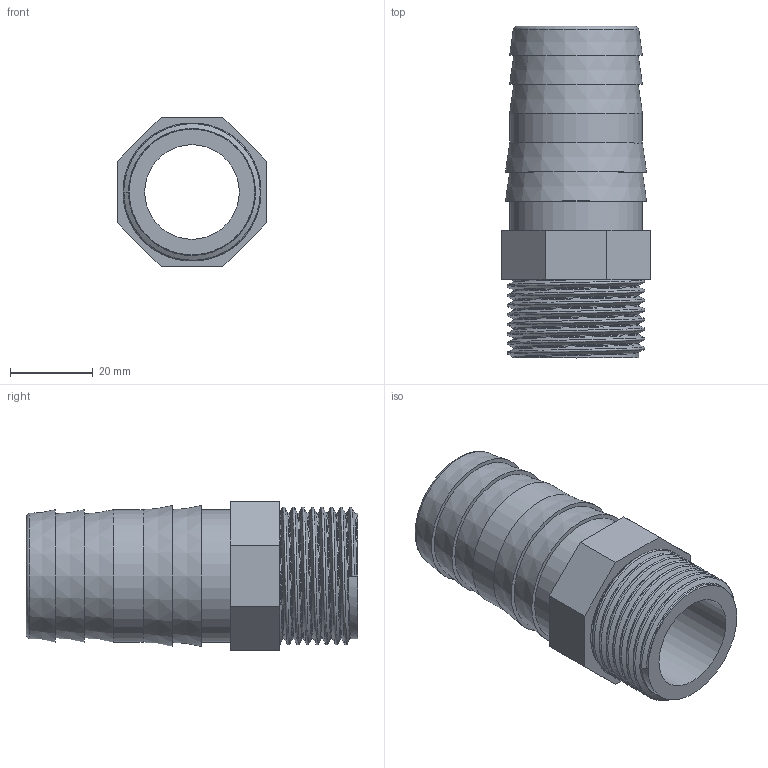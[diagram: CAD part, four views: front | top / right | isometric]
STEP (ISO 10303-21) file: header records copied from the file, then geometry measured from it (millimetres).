
FILE_DESCRIPTION(/* description */ ('PVC portagomma filettato BSP maschio'),/* implementation_level */ '2;1');
FILE_NAME(/* name */ 'C:\Users\POLYPIPE\Desktop\DATASET INVENTOR\LIBRERIA EFFAST\RACCORDI 3DxWEB\RER\3D_RERPGE\3D_RERPGE032D.stp',/* time_stamp */ '2018-01-19T16:52:16+01:00',/* author */ ('POLYPIPE'),/* organization */ ('Polypipe Italia'),/* preprocessor_version */ 'ST-DEVELOPER v16.1',/* originating_system */ 'Autodesk Inventor 2016',/* authorisation */ '');
FILE_SCHEMA (('CONFIG_CONTROL_DESIGN'));
Length unit declared in the file: millimetre
Products named in the file (1): 3D_RERPGE032D
Bounding box: 36 x 80 x 36 mm (x, y, z)
Volume: 34295.9 mm3; surface area: 16807.5 mm2
Topology: 1 solids, 1 shells, 34 faces, 73 edges, 47 vertices
Faces by surface type: plane 18, cone 5, bspline 5, cylinder 5, torus 1
Full cylindrical faces by diameter (mm): 22.8 x1, 30.291 x1, 32 x2
Entity records: 3853 total; most frequent: CARTESIAN_POINT 3150, DIRECTION 129, ORIENTED_EDGE 126, EDGE_CURVE 63, EDGE_LOOP 51, AXIS2_PLACEMENT_3D 51, VERTEX_POINT 46, FACE_OUTER_BOUND 34
